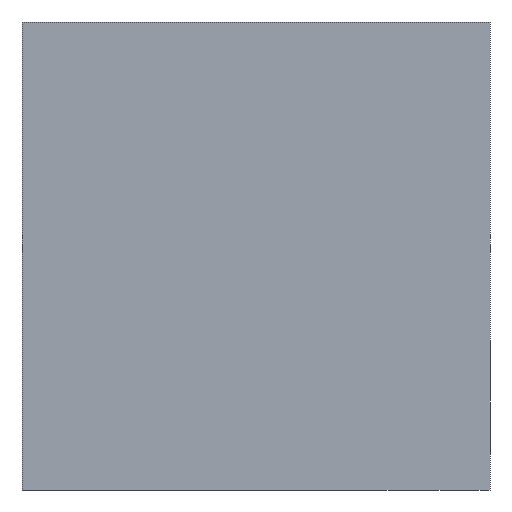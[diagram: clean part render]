
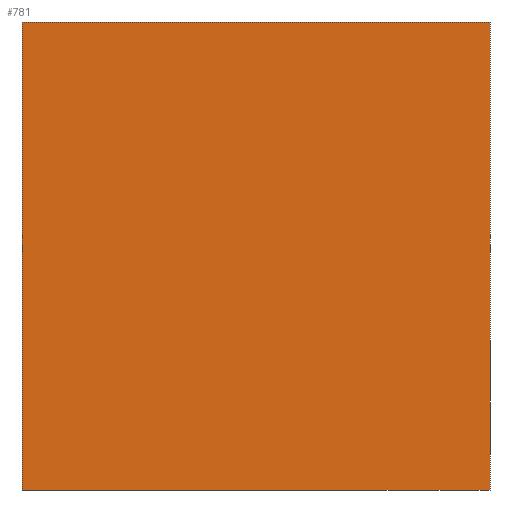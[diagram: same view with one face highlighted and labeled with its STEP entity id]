
A CAD part, left-side view. The second image highlights one B-rep face of the part: STEP entity #781.
In plain terms, the highlighted planar face has unit normal (-1, 0, 0).
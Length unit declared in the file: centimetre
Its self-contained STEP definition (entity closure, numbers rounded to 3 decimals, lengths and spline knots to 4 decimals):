
#12 = VECTOR ( 'NONE', #151, 100. ) ;
#39 = PLANE ( 'NONE',  #159 ) ;
#61 = CARTESIAN_POINT ( 'NONE',  ( 0., 1000., 1000. ) ) ;
#83 = DIRECTION ( 'NONE',  ( 0., 0., -1. ) ) ;
#109 = DIRECTION ( 'NONE',  ( 0., 0., -1. ) ) ;
#129 = LINE ( 'NONE', #580, #12 ) ;
#136 = CARTESIAN_POINT ( 'NONE',  ( 0., 1000., 0. ) ) ;
#143 = VECTOR ( 'NONE', #778, 100. ) ;
#151 = DIRECTION ( 'NONE',  ( 0., -1., 0. ) ) ;
#152 = EDGE_CURVE ( 'NONE', #173, #431, #129, .T. ) ;
#159 = AXIS2_PLACEMENT_3D ( 'NONE', #502, #818, #109 ) ;
#173 = VERTEX_POINT ( 'NONE', #61 ) ;
#200 = LINE ( 'NONE', #396, #685 ) ;
#211 = LINE ( 'NONE', #548, #601 ) ;
#222 = ORIENTED_EDGE ( 'NONE', *, *, #325, .F. ) ;
#225 = ORIENTED_EDGE ( 'NONE', *, *, #152, .F. ) ;
#325 = EDGE_CURVE ( 'NONE', #431, #785, #211, .T. ) ;
#363 = CARTESIAN_POINT ( 'NONE',  ( 0., 0., 0. ) ) ;
#382 = ORIENTED_EDGE ( 'NONE', *, *, #462, .T. ) ;
#396 = CARTESIAN_POINT ( 'NONE',  ( 0., 1000., 1000. ) ) ;
#431 = VERTEX_POINT ( 'NONE', #645 ) ;
#462 = EDGE_CURVE ( 'NONE', #552, #785, #511, .T. ) ;
#502 = CARTESIAN_POINT ( 'NONE',  ( 0., 1000., 1000. ) ) ;
#511 = LINE ( 'NONE', #136, #143 ) ;
#541 = ORIENTED_EDGE ( 'NONE', *, *, #593, .T. ) ;
#548 = CARTESIAN_POINT ( 'NONE',  ( 0., 0., 1000. ) ) ;
#552 = VERTEX_POINT ( 'NONE', #609 ) ;
#580 = CARTESIAN_POINT ( 'NONE',  ( 0., 1000., 1000. ) ) ;
#593 = EDGE_CURVE ( 'NONE', #173, #552, #200, .T. ) ;
#601 = VECTOR ( 'NONE', #612, 100. ) ;
#609 = CARTESIAN_POINT ( 'NONE',  ( 0., 1000., 0. ) ) ;
#612 = DIRECTION ( 'NONE',  ( 0., 0., -1. ) ) ;
#621 = EDGE_LOOP ( 'NONE', ( #382, #222, #225, #541 ) ) ;
#625 = FACE_OUTER_BOUND ( 'NONE', #621, .T. ) ;
#645 = CARTESIAN_POINT ( 'NONE',  ( 0., 0., 1000. ) ) ;
#685 = VECTOR ( 'NONE', #83, 100. ) ;
#778 = DIRECTION ( 'NONE',  ( 0., -1., 0. ) ) ;
#781 = ADVANCED_FACE ( 'NONE', ( #625 ), #39, .F. ) ;
#785 = VERTEX_POINT ( 'NONE', #363 ) ;
#818 = DIRECTION ( 'NONE',  ( 1., 0., 0. ) ) ;
